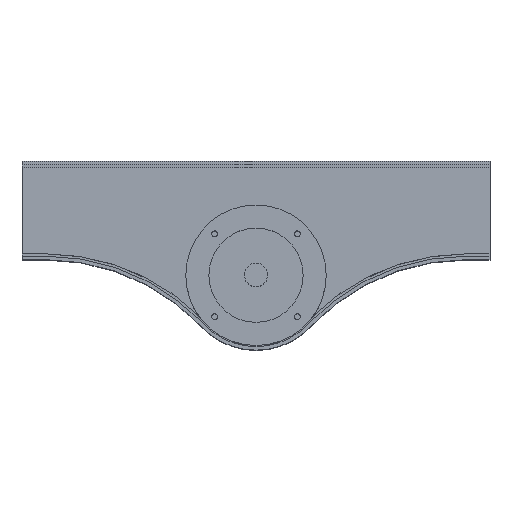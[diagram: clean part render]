
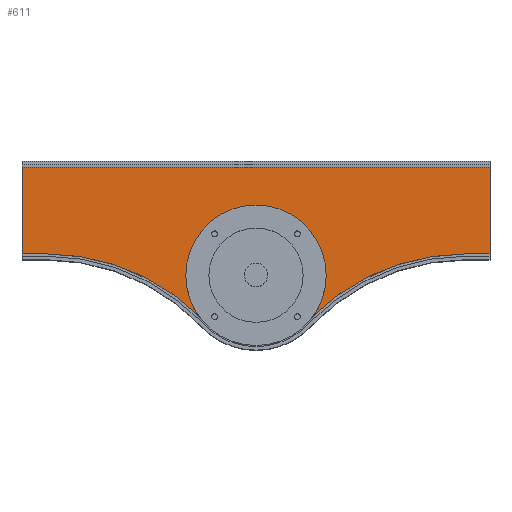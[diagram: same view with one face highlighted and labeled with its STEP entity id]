
A CAD part, top view. The second image highlights one B-rep face of the part: STEP entity #611.
In plain terms, the highlighted planar face has unit normal (0, 0, 1).
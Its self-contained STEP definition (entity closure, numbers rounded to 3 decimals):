
#44 = VERTEX_POINT ( 'NONE', #1001 ) ;
#52 = CARTESIAN_POINT ( 'NONE',  ( -200., -42., 100. ) ) ;
#77 = EDGE_CURVE ( 'NONE', #44, #1883, #826, .T. ) ;
#80 = CARTESIAN_POINT ( 'NONE',  ( 200., 37., 100. ) ) ;
#98 = VECTOR ( 'NONE', #964, 1000. ) ;
#110 = DIRECTION ( 'NONE',  ( 0., 0., 1. ) ) ;
#116 = ORIENTED_EDGE ( 'NONE', *, *, #77, .F. ) ;
#128 = VECTOR ( 'NONE', #1214, 1000. ) ;
#162 = CARTESIAN_POINT ( 'NONE',  ( -49.582, -89.088, 100. ) ) ;
#191 = CIRCLE ( 'NONE', #1189, 60. ) ;
#193 = DIRECTION ( 'NONE',  ( 0., 0., 1. ) ) ;
#203 = EDGE_CURVE ( 'NONE', #1847, #1913, #540, .T. ) ;
#224 = VECTOR ( 'NONE', #1016, 1000. ) ;
#261 = CIRCLE ( 'NONE', #1435, 188. ) ;
#274 = VERTEX_POINT ( 'NONE', #80 ) ;
#277 = ORIENTED_EDGE ( 'NONE', *, *, #1602, .T. ) ;
#278 = ORIENTED_EDGE ( 'NONE', *, *, #1703, .F. ) ;
#301 = ORIENTED_EDGE ( 'NONE', *, *, #1585, .F. ) ;
#315 = DIRECTION ( 'NONE',  ( 0., 0., 1. ) ) ;
#384 = EDGE_CURVE ( 'NONE', #1913, #1596, #1665, .T. ) ;
#403 = LINE ( 'NONE', #1144, #1226 ) ;
#486 = LINE ( 'NONE', #737, #128 ) ;
#500 = AXIS2_PLACEMENT_3D ( 'NONE', #508, #315, #1651 ) ;
#508 = CARTESIAN_POINT ( 'NONE',  ( 179.474, -225., 100. ) ) ;
#540 = CIRCLE ( 'NONE', #2093, 60. ) ;
#560 = CARTESIAN_POINT ( 'NONE',  ( -200., 37., 100. ) ) ;
#583 = CARTESIAN_POINT ( 'NONE',  ( 200., -37., 100. ) ) ;
#584 = DIRECTION ( 'NONE',  ( 1., 0., 0. ) ) ;
#591 = ORIENTED_EDGE ( 'NONE', *, *, #203, .F. ) ;
#592 = DIRECTION ( 'NONE',  ( 0., 1., 0. ) ) ;
#596 = ORIENTED_EDGE ( 'NONE', *, *, #384, .F. ) ;
#611 = ADVANCED_FACE ( 'NONE', ( #1311 ), #1772, .T. ) ;
#644 = LINE ( 'NONE', #1774, #98 ) ;
#716 = CARTESIAN_POINT ( 'NONE',  ( 49.582, -89.088, 100. ) ) ;
#737 = CARTESIAN_POINT ( 'NONE',  ( -200., 37., 100. ) ) ;
#759 = VERTEX_POINT ( 'NONE', #560 ) ;
#826 = CIRCLE ( 'NONE', #1430, 188. ) ;
#856 = VECTOR ( 'NONE', #592, 1000. ) ;
#885 = CARTESIAN_POINT ( 'NONE',  ( 60., -55.3, 100. ) ) ;
#922 = DIRECTION ( 'NONE',  ( 1., 0., 0. ) ) ;
#964 = DIRECTION ( 'NONE',  ( 1., 0., 0. ) ) ;
#1001 = CARTESIAN_POINT ( 'NONE',  ( 179.474, -37., 100. ) ) ;
#1016 = DIRECTION ( 'NONE',  ( 0., -1., 0. ) ) ;
#1064 = ORIENTED_EDGE ( 'NONE', *, *, #1119, .F. ) ;
#1119 = EDGE_CURVE ( 'NONE', #759, #274, #486, .T. ) ;
#1123 = AXIS2_PLACEMENT_3D ( 'NONE', #1406, #110, #584 ) ;
#1128 = DIRECTION ( 'NONE',  ( 1., 0., 0. ) ) ;
#1133 = VERTEX_POINT ( 'NONE', #583 ) ;
#1144 = CARTESIAN_POINT ( 'NONE',  ( -179.474, -37., 100. ) ) ;
#1170 = DIRECTION ( 'NONE',  ( -1., 0., 0. ) ) ;
#1179 = CARTESIAN_POINT ( 'NONE',  ( -60., -55.3, 100. ) ) ;
#1189 = AXIS2_PLACEMENT_3D ( 'NONE', #1502, #193, #1342 ) ;
#1214 = DIRECTION ( 'NONE',  ( 1., 0., 0. ) ) ;
#1219 = ORIENTED_EDGE ( 'NONE', *, *, #1836, .F. ) ;
#1226 = VECTOR ( 'NONE', #1170, 1000. ) ;
#1246 = ORIENTED_EDGE ( 'NONE', *, *, #1656, .T. ) ;
#1311 = FACE_OUTER_BOUND ( 'NONE', #1384, .T. ) ;
#1313 = DIRECTION ( 'NONE',  ( 0., 0., 1. ) ) ;
#1333 = DIRECTION ( 'NONE',  ( 1., 0., 0. ) ) ;
#1342 = DIRECTION ( 'NONE',  ( 1., 0., 0. ) ) ;
#1364 = DIRECTION ( 'NONE',  ( 0., 0., 1. ) ) ;
#1384 = EDGE_LOOP ( 'NONE', ( #301, #596, #591, #1219, #116, #277, #1892, #1064, #1246, #278 ) ) ;
#1405 = LINE ( 'NONE', #52, #224 ) ;
#1406 = CARTESIAN_POINT ( 'NONE',  ( 0., -55.3, 100. ) ) ;
#1408 = CARTESIAN_POINT ( 'NONE',  ( 179.474, -225., 100. ) ) ;
#1430 = AXIS2_PLACEMENT_3D ( 'NONE', #1408, #1364, #922 ) ;
#1435 = AXIS2_PLACEMENT_3D ( 'NONE', #1784, #1313, #1128 ) ;
#1502 = CARTESIAN_POINT ( 'NONE',  ( 0., -55.3, 100. ) ) ;
#1567 = VERTEX_POINT ( 'NONE', #1638 ) ;
#1585 = EDGE_CURVE ( 'NONE', #1596, #1862, #261, .T. ) ;
#1596 = VERTEX_POINT ( 'NONE', #162 ) ;
#1602 = EDGE_CURVE ( 'NONE', #44, #1133, #644, .T. ) ;
#1638 = CARTESIAN_POINT ( 'NONE',  ( -200., -37., 100. ) ) ;
#1643 = DIRECTION ( 'NONE',  ( 0., 0., 1. ) ) ;
#1651 = DIRECTION ( 'NONE',  ( 1., 0., 0. ) ) ;
#1655 = CARTESIAN_POINT ( 'NONE',  ( 0., -55.3, 100. ) ) ;
#1656 = EDGE_CURVE ( 'NONE', #759, #1567, #1405, .T. ) ;
#1665 = CIRCLE ( 'NONE', #1123, 60. ) ;
#1703 = EDGE_CURVE ( 'NONE', #1862, #1567, #403, .T. ) ;
#1772 = PLANE ( 'NONE',  #500 ) ;
#1774 = CARTESIAN_POINT ( 'NONE',  ( 179.474, -37., 100. ) ) ;
#1784 = CARTESIAN_POINT ( 'NONE',  ( -179.474, -225., 100. ) ) ;
#1815 = CARTESIAN_POINT ( 'NONE',  ( -179.474, -37., 100. ) ) ;
#1836 = EDGE_CURVE ( 'NONE', #1883, #1847, #191, .T. ) ;
#1847 = VERTEX_POINT ( 'NONE', #885 ) ;
#1862 = VERTEX_POINT ( 'NONE', #1815 ) ;
#1879 = CARTESIAN_POINT ( 'NONE',  ( 200., 42., 100. ) ) ;
#1883 = VERTEX_POINT ( 'NONE', #716 ) ;
#1892 = ORIENTED_EDGE ( 'NONE', *, *, #2080, .T. ) ;
#1911 = LINE ( 'NONE', #1879, #856 ) ;
#1913 = VERTEX_POINT ( 'NONE', #1179 ) ;
#2080 = EDGE_CURVE ( 'NONE', #1133, #274, #1911, .T. ) ;
#2093 = AXIS2_PLACEMENT_3D ( 'NONE', #1655, #1643, #1333 ) ;
